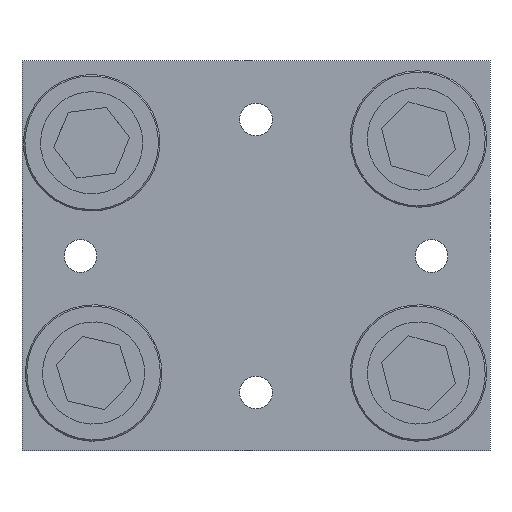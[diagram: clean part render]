
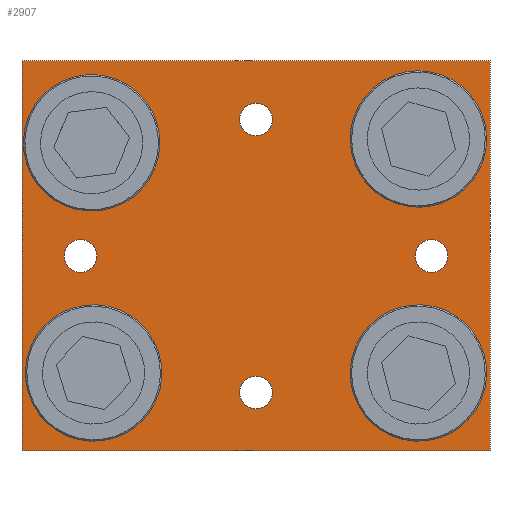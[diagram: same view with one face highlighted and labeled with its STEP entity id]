
A CAD part, front view. The second image highlights one B-rep face of the part: STEP entity #2907.
In plain terms, the highlighted planar face has unit normal (0, -1, 0).
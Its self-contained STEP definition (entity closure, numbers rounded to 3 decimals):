
#203=LINE('',#3959,#265);
#207=LINE('',#3968,#269);
#210=LINE('',#3974,#272);
#213=LINE('',#3980,#275);
#265=VECTOR('',#3365,1000.);
#269=VECTOR('',#3371,1000.);
#272=VECTOR('',#3376,1000.);
#275=VECTOR('',#3381,1000.);
#332=PLANE('',#3072);
#411=ORIENTED_EDGE('',*,*,#991,.F.);
#412=ORIENTED_EDGE('',*,*,#992,.F.);
#413=ORIENTED_EDGE('',*,*,#993,.F.);
#414=ORIENTED_EDGE('',*,*,#994,.F.);
#415=ORIENTED_EDGE('',*,*,#995,.T.);
#416=ORIENTED_EDGE('',*,*,#996,.T.);
#417=ORIENTED_EDGE('',*,*,#997,.T.);
#418=ORIENTED_EDGE('',*,*,#998,.T.);
#419=ORIENTED_EDGE('',*,*,#979,.T.);
#420=ORIENTED_EDGE('',*,*,#983,.T.);
#421=ORIENTED_EDGE('',*,*,#986,.T.);
#422=ORIENTED_EDGE('',*,*,#989,.T.);
#979=EDGE_CURVE('',#1277,#1278,#203,.T.);
#983=EDGE_CURVE('',#1278,#1281,#207,.T.);
#986=EDGE_CURVE('',#1281,#1283,#210,.T.);
#989=EDGE_CURVE('',#1283,#1277,#213,.T.);
#991=EDGE_CURVE('',#1285,#1285,#1501,.T.);
#992=EDGE_CURVE('',#1286,#1286,#1502,.T.);
#993=EDGE_CURVE('',#1287,#1287,#1503,.T.);
#994=EDGE_CURVE('',#1288,#1288,#1504,.T.);
#995=EDGE_CURVE('',#1289,#1289,#1505,.T.);
#996=EDGE_CURVE('',#1290,#1290,#1506,.T.);
#997=EDGE_CURVE('',#1291,#1291,#1507,.T.);
#998=EDGE_CURVE('',#1292,#1292,#1508,.T.);
#1277=VERTEX_POINT('',#3960);
#1278=VERTEX_POINT('',#3961);
#1281=VERTEX_POINT('',#3969);
#1283=VERTEX_POINT('',#3975);
#1285=VERTEX_POINT('',#3985);
#1286=VERTEX_POINT('',#3987);
#1287=VERTEX_POINT('',#3989);
#1288=VERTEX_POINT('',#3991);
#1289=VERTEX_POINT('',#3993);
#1290=VERTEX_POINT('',#3995);
#1291=VERTEX_POINT('',#3997);
#1292=VERTEX_POINT('',#3999);
#1501=CIRCLE('',#3073,4.188);
#1502=CIRCLE('',#3074,4.188);
#1503=CIRCLE('',#3075,4.188);
#1504=CIRCLE('',#3076,4.188);
#1505=CIRCLE('',#3077,4.);
#1506=CIRCLE('',#3078,4.);
#1507=CIRCLE('',#3079,4.);
#1508=CIRCLE('',#3080,4.);
#1646=EDGE_LOOP('',(#411));
#1647=EDGE_LOOP('',(#412));
#1648=EDGE_LOOP('',(#413));
#1649=EDGE_LOOP('',(#414));
#1650=EDGE_LOOP('',(#415));
#1651=EDGE_LOOP('',(#416));
#1652=EDGE_LOOP('',(#417));
#1653=EDGE_LOOP('',(#418));
#1654=EDGE_LOOP('',(#419,#420,#421,#422));
#1872=FACE_BOUND('',#1646,.T.);
#1873=FACE_BOUND('',#1647,.T.);
#1874=FACE_BOUND('',#1648,.T.);
#1875=FACE_BOUND('',#1649,.T.);
#1876=FACE_BOUND('',#1650,.T.);
#1877=FACE_BOUND('',#1651,.T.);
#1878=FACE_BOUND('',#1652,.T.);
#1879=FACE_BOUND('',#1653,.T.);
#1880=FACE_BOUND('',#1654,.T.);
#2907=ADVANCED_FACE('',(#1872,#1873,#1874,#1875,#1876,#1877,#1878,#1879,
#1880),#332,.T.);
#3072=AXIS2_PLACEMENT_3D('',#3983,#3385,#3386);
#3073=AXIS2_PLACEMENT_3D('',#3984,#3387,#3388);
#3074=AXIS2_PLACEMENT_3D('',#3986,#3389,#3390);
#3075=AXIS2_PLACEMENT_3D('',#3988,#3391,#3392);
#3076=AXIS2_PLACEMENT_3D('',#3990,#3393,#3394);
#3077=AXIS2_PLACEMENT_3D('',#3992,#3395,#3396);
#3078=AXIS2_PLACEMENT_3D('',#3994,#3397,#3398);
#3079=AXIS2_PLACEMENT_3D('',#3996,#3399,#3400);
#3080=AXIS2_PLACEMENT_3D('',#3998,#3401,#3402);
#3365=DIRECTION('',(0.,0.,1.));
#3371=DIRECTION('',(-1.,0.,0.));
#3376=DIRECTION('',(0.,0.,-1.));
#3381=DIRECTION('',(1.,0.,0.));
#3385=DIRECTION('',(0.,-1.,0.));
#3386=DIRECTION('',(0.,0.,-1.));
#3387=DIRECTION('',(0.,-1.,0.));
#3388=DIRECTION('',(1.,0.,0.));
#3389=DIRECTION('',(0.,-1.,0.));
#3390=DIRECTION('',(1.,0.,0.));
#3391=DIRECTION('',(0.,-1.,0.));
#3392=DIRECTION('',(1.,0.,0.));
#3393=DIRECTION('',(0.,-1.,0.));
#3394=DIRECTION('',(1.,0.,0.));
#3395=DIRECTION('',(0.,1.,0.));
#3396=DIRECTION('',(0.,0.,-1.));
#3397=DIRECTION('',(0.,1.,0.));
#3398=DIRECTION('',(0.,0.,-1.));
#3399=DIRECTION('',(0.,1.,0.));
#3400=DIRECTION('',(0.,0.,-1.));
#3401=DIRECTION('',(0.,1.,0.));
#3402=DIRECTION('',(0.,0.,-1.));
#3959=CARTESIAN_POINT('',(60.,0.,-50.));
#3960=CARTESIAN_POINT('',(60.,0.,-50.));
#3961=CARTESIAN_POINT('',(60.,0.,50.));
#3968=CARTESIAN_POINT('',(60.,0.,50.));
#3969=CARTESIAN_POINT('',(-60.,0.,50.));
#3974=CARTESIAN_POINT('',(-60.,0.,50.));
#3975=CARTESIAN_POINT('',(-60.,0.,-50.));
#3980=CARTESIAN_POINT('',(-60.,0.,-50.));
#3983=CARTESIAN_POINT('',(0.,0.,0.));
#3984=CARTESIAN_POINT('',(-45.,0.,0.));
#3985=CARTESIAN_POINT('',(-40.812,0.,0.));
#3986=CARTESIAN_POINT('',(0.,0.,-35.));
#3987=CARTESIAN_POINT('',(4.188,0.,-35.));
#3988=CARTESIAN_POINT('',(45.,0.,0.));
#3989=CARTESIAN_POINT('',(49.188,0.,0.));
#3990=CARTESIAN_POINT('',(0.,0.,35.));
#3991=CARTESIAN_POINT('',(4.188,0.,35.));
#3992=CARTESIAN_POINT('',(-41.65,0.,-30.));
#3993=CARTESIAN_POINT('',(-41.65,0.,-34.));
#3994=CARTESIAN_POINT('',(41.65,0.,-29.933));
#3995=CARTESIAN_POINT('',(41.65,0.,-33.933));
#3996=CARTESIAN_POINT('',(41.65,0.,30.));
#3997=CARTESIAN_POINT('',(41.65,0.,26.));
#3998=CARTESIAN_POINT('',(-41.721,0.,29.933));
#3999=CARTESIAN_POINT('',(-41.721,0.,25.933));
